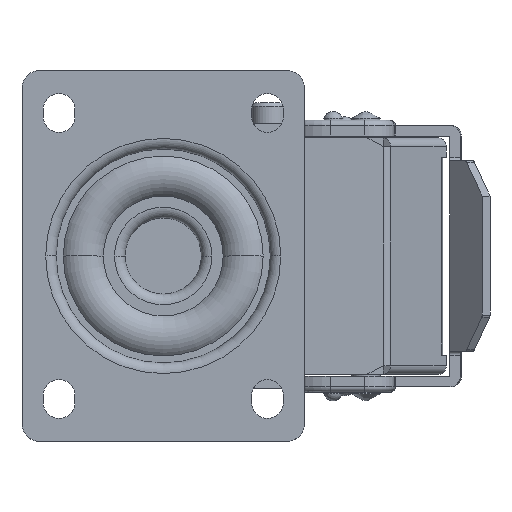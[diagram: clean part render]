
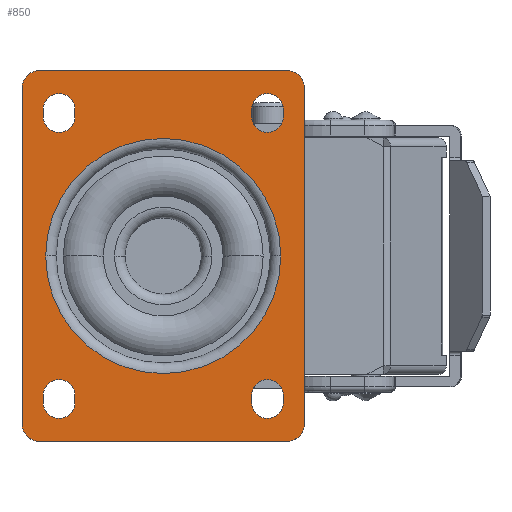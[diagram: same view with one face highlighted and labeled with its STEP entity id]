
A CAD part, top view. The second image highlights one B-rep face of the part: STEP entity #850.
In plain terms, the highlighted planar face has unit normal (0, 0, 1).
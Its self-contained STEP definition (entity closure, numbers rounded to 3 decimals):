
#285=FACE_BOUND('',#2431,.T.);
#286=FACE_BOUND('',#2432,.T.);
#287=FACE_BOUND('',#2433,.T.);
#288=FACE_BOUND('',#2434,.T.);
#289=FACE_BOUND('',#2435,.T.);
#290=FACE_BOUND('',#2436,.T.);
#458=PLANE('',#12709);
#850=ADVANCED_FACE('',(#285,#286,#287,#288,#289,#290),#458,.F.);
#2431=EDGE_LOOP('',(#4082,#4083,#4084,#4085));
#2432=EDGE_LOOP('',(#4086,#4087,#4088,#4089,#4090,#4091,#4092,#4093));
#2433=EDGE_LOOP('',(#4094,#4095));
#2434=EDGE_LOOP('',(#4096,#4097,#4098,#4099));
#2435=EDGE_LOOP('',(#4100,#4101,#4102,#4103));
#2436=EDGE_LOOP('',(#4104,#4105,#4106,#4107));
#3351=CIRCLE('',#12695,4.5);
#3352=CIRCLE('',#12696,4.5);
#3353=CIRCLE('',#12697,5.);
#3354=CIRCLE('',#12698,5.);
#3355=CIRCLE('',#12699,5.);
#3356=CIRCLE('',#12700,5.);
#3357=CIRCLE('',#12701,33.296);
#3358=CIRCLE('',#12702,33.296);
#3359=CIRCLE('',#12703,4.5);
#3360=CIRCLE('',#12704,4.5);
#3361=CIRCLE('',#12705,4.5);
#3362=CIRCLE('',#12706,4.5);
#3363=CIRCLE('',#12707,4.5);
#3364=CIRCLE('',#12708,4.5);
#4082=ORIENTED_EDGE('',*,*,#8975,.F.);
#4083=ORIENTED_EDGE('',*,*,#8976,.F.);
#4084=ORIENTED_EDGE('',*,*,#8977,.F.);
#4085=ORIENTED_EDGE('',*,*,#8978,.F.);
#4086=ORIENTED_EDGE('',*,*,#8979,.F.);
#4087=ORIENTED_EDGE('',*,*,#8980,.T.);
#4088=ORIENTED_EDGE('',*,*,#8981,.F.);
#4089=ORIENTED_EDGE('',*,*,#8982,.T.);
#4090=ORIENTED_EDGE('',*,*,#8983,.F.);
#4091=ORIENTED_EDGE('',*,*,#8984,.T.);
#4092=ORIENTED_EDGE('',*,*,#8985,.F.);
#4093=ORIENTED_EDGE('',*,*,#8986,.T.);
#4094=ORIENTED_EDGE('',*,*,#8987,.F.);
#4095=ORIENTED_EDGE('',*,*,#8988,.T.);
#4096=ORIENTED_EDGE('',*,*,#8989,.T.);
#4097=ORIENTED_EDGE('',*,*,#8990,.T.);
#4098=ORIENTED_EDGE('',*,*,#8991,.T.);
#4099=ORIENTED_EDGE('',*,*,#8992,.T.);
#4100=ORIENTED_EDGE('',*,*,#8993,.T.);
#4101=ORIENTED_EDGE('',*,*,#8994,.T.);
#4102=ORIENTED_EDGE('',*,*,#8995,.T.);
#4103=ORIENTED_EDGE('',*,*,#8996,.T.);
#4104=ORIENTED_EDGE('',*,*,#8997,.F.);
#4105=ORIENTED_EDGE('',*,*,#8998,.F.);
#4106=ORIENTED_EDGE('',*,*,#8999,.F.);
#4107=ORIENTED_EDGE('',*,*,#9000,.F.);
#7721=VERTEX_POINT('',#18383);
#7722=VERTEX_POINT('',#18384);
#7723=VERTEX_POINT('',#18386);
#7724=VERTEX_POINT('',#18388);
#7725=VERTEX_POINT('',#18391);
#7726=VERTEX_POINT('',#18392);
#7727=VERTEX_POINT('',#18394);
#7728=VERTEX_POINT('',#18396);
#7729=VERTEX_POINT('',#18398);
#7730=VERTEX_POINT('',#18400);
#7731=VERTEX_POINT('',#18402);
#7732=VERTEX_POINT('',#18404);
#7733=VERTEX_POINT('',#18407);
#7734=VERTEX_POINT('',#18408);
#7735=VERTEX_POINT('',#18411);
#7736=VERTEX_POINT('',#18412);
#7737=VERTEX_POINT('',#18414);
#7738=VERTEX_POINT('',#18416);
#7739=VERTEX_POINT('',#18419);
#7740=VERTEX_POINT('',#18420);
#7741=VERTEX_POINT('',#18422);
#7742=VERTEX_POINT('',#18424);
#7743=VERTEX_POINT('',#18427);
#7744=VERTEX_POINT('',#18428);
#7745=VERTEX_POINT('',#18430);
#7746=VERTEX_POINT('',#18432);
#8975=EDGE_CURVE('',#7721,#7722,#10764,.T.);
#8976=EDGE_CURVE('',#7723,#7721,#3351,.T.);
#8977=EDGE_CURVE('',#7724,#7723,#10765,.T.);
#8978=EDGE_CURVE('',#7722,#7724,#3352,.T.);
#8979=EDGE_CURVE('',#7725,#7726,#10766,.T.);
#8980=EDGE_CURVE('',#7725,#7727,#3353,.T.);
#8981=EDGE_CURVE('',#7728,#7727,#10767,.T.);
#8982=EDGE_CURVE('',#7728,#7729,#3354,.T.);
#8983=EDGE_CURVE('',#7730,#7729,#10768,.T.);
#8984=EDGE_CURVE('',#7730,#7731,#3355,.T.);
#8985=EDGE_CURVE('',#7732,#7731,#10769,.T.);
#8986=EDGE_CURVE('',#7732,#7726,#3356,.T.);
#8987=EDGE_CURVE('',#7733,#7734,#3357,.T.);
#8988=EDGE_CURVE('',#7733,#7734,#3358,.T.);
#8989=EDGE_CURVE('',#7735,#7736,#3359,.T.);
#8990=EDGE_CURVE('',#7736,#7737,#10770,.T.);
#8991=EDGE_CURVE('',#7737,#7738,#3360,.T.);
#8992=EDGE_CURVE('',#7738,#7735,#10771,.T.);
#8993=EDGE_CURVE('',#7739,#7740,#3361,.T.);
#8994=EDGE_CURVE('',#7740,#7741,#10772,.T.);
#8995=EDGE_CURVE('',#7741,#7742,#3362,.T.);
#8996=EDGE_CURVE('',#7742,#7739,#10773,.T.);
#8997=EDGE_CURVE('',#7743,#7744,#10774,.T.);
#8998=EDGE_CURVE('',#7745,#7743,#3363,.T.);
#8999=EDGE_CURVE('',#7746,#7745,#10775,.T.);
#9000=EDGE_CURVE('',#7744,#7746,#3364,.T.);
#10764=LINE('',#18382,#11739);
#10765=LINE('',#18387,#11740);
#10766=LINE('',#18390,#11741);
#10767=LINE('',#18395,#11742);
#10768=LINE('',#18399,#11743);
#10769=LINE('',#18403,#11744);
#10770=LINE('',#18413,#11745);
#10771=LINE('',#18417,#11746);
#10772=LINE('',#18421,#11747);
#10773=LINE('',#18425,#11748);
#10774=LINE('',#18426,#11749);
#10775=LINE('',#18431,#11750);
#11739=VECTOR('',#14316,1.);
#11740=VECTOR('',#14319,1.);
#11741=VECTOR('',#14322,1.);
#11742=VECTOR('',#14325,1.);
#11743=VECTOR('',#14328,1.);
#11744=VECTOR('',#14331,1.);
#11745=VECTOR('',#14340,1.);
#11746=VECTOR('',#14343,1.);
#11747=VECTOR('',#14346,1.);
#11748=VECTOR('',#14349,1.);
#11749=VECTOR('',#14350,1.);
#11750=VECTOR('',#14353,1.);
#12695=AXIS2_PLACEMENT_3D('',#18385,#14317,#14318);
#12696=AXIS2_PLACEMENT_3D('',#18389,#14320,#14321);
#12697=AXIS2_PLACEMENT_3D('',#18393,#14323,#14324);
#12698=AXIS2_PLACEMENT_3D('',#18397,#14326,#14327);
#12699=AXIS2_PLACEMENT_3D('',#18401,#14329,#14330);
#12700=AXIS2_PLACEMENT_3D('',#18405,#14332,#14333);
#12701=AXIS2_PLACEMENT_3D('',#18406,#14334,#14335);
#12702=AXIS2_PLACEMENT_3D('',#18409,#14336,#14337);
#12703=AXIS2_PLACEMENT_3D('',#18410,#14338,#14339);
#12704=AXIS2_PLACEMENT_3D('',#18415,#14341,#14342);
#12705=AXIS2_PLACEMENT_3D('',#18418,#14344,#14345);
#12706=AXIS2_PLACEMENT_3D('',#18423,#14347,#14348);
#12707=AXIS2_PLACEMENT_3D('',#18429,#14351,#14352);
#12708=AXIS2_PLACEMENT_3D('',#18433,#14354,#14355);
#12709=AXIS2_PLACEMENT_3D('',#18434,#14356,#14357);
#14316=DIRECTION('',(0.,-1.,0.));
#14317=DIRECTION('',(0.,0.,1.));
#14318=DIRECTION('',(1.,0.,0.));
#14319=DIRECTION('',(0.,1.,0.));
#14320=DIRECTION('',(0.,0.,1.));
#14321=DIRECTION('',(1.,0.,0.));
#14322=DIRECTION('',(0.,-1.,0.));
#14323=DIRECTION('',(0.,0.,1.));
#14324=DIRECTION('',(1.,0.,0.));
#14325=DIRECTION('',(1.,0.,0.));
#14326=DIRECTION('',(0.,0.,1.));
#14327=DIRECTION('',(0.,1.,0.));
#14328=DIRECTION('',(0.,1.,0.));
#14329=DIRECTION('',(0.,0.,1.));
#14330=DIRECTION('',(-1.,0.,0.));
#14331=DIRECTION('',(-1.,0.,0.));
#14332=DIRECTION('',(0.,0.,1.));
#14333=DIRECTION('',(0.,-1.,0.));
#14334=DIRECTION('',(0.,0.,1.));
#14335=DIRECTION('',(-1.,0.,0.));
#14336=DIRECTION('',(0.,0.,-1.));
#14337=DIRECTION('',(-1.,0.,0.));
#14338=DIRECTION('',(0.,0.,-1.));
#14339=DIRECTION('',(1.,0.,0.));
#14340=DIRECTION('',(0.,1.,0.));
#14341=DIRECTION('',(0.,0.,-1.));
#14342=DIRECTION('',(1.,0.,0.));
#14343=DIRECTION('',(0.,-1.,0.));
#14344=DIRECTION('',(0.,0.,-1.));
#14345=DIRECTION('',(-1.,0.,0.));
#14346=DIRECTION('',(0.,1.,0.));
#14347=DIRECTION('',(0.,0.,-1.));
#14348=DIRECTION('',(-1.,0.,0.));
#14349=DIRECTION('',(0.,-1.,0.));
#14350=DIRECTION('',(0.,-1.,0.));
#14351=DIRECTION('',(0.,0.,1.));
#14352=DIRECTION('',(-1.,0.,0.));
#14353=DIRECTION('',(0.,1.,0.));
#14354=DIRECTION('',(0.,0.,1.));
#14355=DIRECTION('',(-1.,0.,0.));
#14356=DIRECTION('',(0.,0.,-1.));
#14357=DIRECTION('',(-1.,0.,0.));
#18382=CARTESIAN_POINT('',(-34.,41.5,0.));
#18383=CARTESIAN_POINT('',(-34.,41.5,0.));
#18384=CARTESIAN_POINT('',(-34.,39.5,0.));
#18385=CARTESIAN_POINT('',(-29.5,41.5,0.));
#18386=CARTESIAN_POINT('',(-25.,41.5,0.));
#18387=CARTESIAN_POINT('',(-25.,39.5,0.));
#18388=CARTESIAN_POINT('',(-25.,39.5,0.));
#18389=CARTESIAN_POINT('',(-29.5,39.5,0.));
#18390=CARTESIAN_POINT('',(40.,47.5,0.));
#18391=CARTESIAN_POINT('',(40.,47.5,0.));
#18392=CARTESIAN_POINT('',(40.,-47.5,0.));
#18393=CARTESIAN_POINT('',(35.,47.5,0.));
#18394=CARTESIAN_POINT('',(35.,52.5,0.));
#18395=CARTESIAN_POINT('',(-35.,52.5,0.));
#18396=CARTESIAN_POINT('',(-35.,52.5,0.));
#18397=CARTESIAN_POINT('',(-35.,47.5,0.));
#18398=CARTESIAN_POINT('',(-40.,47.5,0.));
#18399=CARTESIAN_POINT('',(-40.,-47.5,0.));
#18400=CARTESIAN_POINT('',(-40.,-47.5,0.));
#18401=CARTESIAN_POINT('',(-35.,-47.5,0.));
#18402=CARTESIAN_POINT('',(-35.,-52.5,0.));
#18403=CARTESIAN_POINT('',(35.,-52.5,0.));
#18404=CARTESIAN_POINT('',(35.,-52.5,0.));
#18405=CARTESIAN_POINT('',(35.,-47.5,0.));
#18406=CARTESIAN_POINT('',(0.,0.,0.));
#18407=CARTESIAN_POINT('',(-33.296,0.,0.));
#18408=CARTESIAN_POINT('',(33.296,0.,0.));
#18409=CARTESIAN_POINT('',(0.,0.,0.));
#18410=CARTESIAN_POINT('',(-29.5,-41.5,0.));
#18411=CARTESIAN_POINT('',(-25.,-41.5,0.));
#18412=CARTESIAN_POINT('',(-34.,-41.5,0.));
#18413=CARTESIAN_POINT('',(-34.,-41.5,0.));
#18414=CARTESIAN_POINT('',(-34.,-39.5,0.));
#18415=CARTESIAN_POINT('',(-29.5,-39.5,0.));
#18416=CARTESIAN_POINT('',(-25.,-39.5,0.));
#18417=CARTESIAN_POINT('',(-25.,-39.5,0.));
#18418=CARTESIAN_POINT('',(29.5,-41.5,0.));
#18419=CARTESIAN_POINT('',(34.,-41.5,0.));
#18420=CARTESIAN_POINT('',(25.,-41.5,0.));
#18421=CARTESIAN_POINT('',(25.,-41.5,0.));
#18422=CARTESIAN_POINT('',(25.,-39.5,0.));
#18423=CARTESIAN_POINT('',(29.5,-39.5,0.));
#18424=CARTESIAN_POINT('',(34.,-39.5,0.));
#18425=CARTESIAN_POINT('',(34.,-39.5,0.));
#18426=CARTESIAN_POINT('',(25.,41.5,0.));
#18427=CARTESIAN_POINT('',(25.,41.5,0.));
#18428=CARTESIAN_POINT('',(25.,39.5,0.));
#18429=CARTESIAN_POINT('',(29.5,41.5,0.));
#18430=CARTESIAN_POINT('',(34.,41.5,0.));
#18431=CARTESIAN_POINT('',(34.,39.5,0.));
#18432=CARTESIAN_POINT('',(34.,39.5,0.));
#18433=CARTESIAN_POINT('',(29.5,39.5,0.));
#18434=CARTESIAN_POINT('',(0.,0.,0.));
